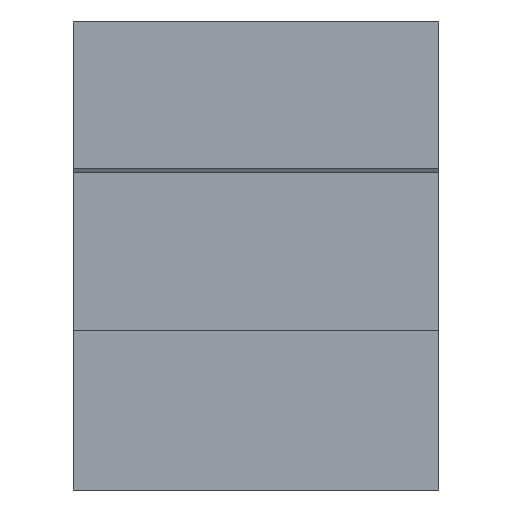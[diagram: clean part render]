
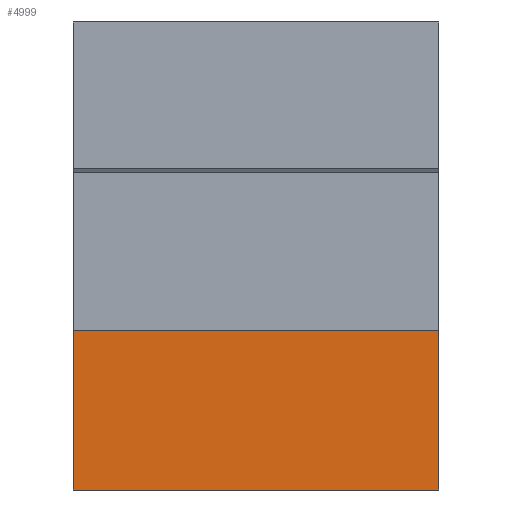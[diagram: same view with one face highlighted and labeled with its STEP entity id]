
A CAD part, front view. The second image highlights one B-rep face of the part: STEP entity #4999.
In plain terms, the highlighted planar face has unit normal (0, -1, 0).
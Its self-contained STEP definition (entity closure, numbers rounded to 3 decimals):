
#225 = EDGE_CURVE ( 'NONE', #2003, #3189, #1235, .T. ) ;
#360 = PLANE ( 'NONE',  #1735 ) ;
#535 = LINE ( 'NONE', #1136, #741 ) ;
#741 = VECTOR ( 'NONE', #6154, 1000. ) ;
#984 = VECTOR ( 'NONE', #7866, 1000. ) ;
#994 = CARTESIAN_POINT ( 'NONE',  ( 39., -29.1, -50. ) ) ;
#1010 = CARTESIAN_POINT ( 'NONE',  ( -39., -29.1, 50. ) ) ;
#1043 = CARTESIAN_POINT ( 'NONE',  ( 39., -29.1, 50. ) ) ;
#1088 = DIRECTION ( 'NONE',  ( 0., 0., 1. ) ) ;
#1136 = CARTESIAN_POINT ( 'NONE',  ( -39., -29.1, -15.938 ) ) ;
#1138 = EDGE_CURVE ( 'NONE', #1652, #5339, #4462, .T. ) ;
#1235 = LINE ( 'NONE', #9268, #984 ) ;
#1652 = VERTEX_POINT ( 'NONE', #1891 ) ;
#1735 = AXIS2_PLACEMENT_3D ( 'NONE', #1043, #5381, #1088 ) ;
#1850 = CARTESIAN_POINT ( 'NONE',  ( 39., -29.1, -15.938 ) ) ;
#1891 = CARTESIAN_POINT ( 'NONE',  ( -39., -29.1, -15.938 ) ) ;
#1983 = EDGE_CURVE ( 'NONE', #1652, #2003, #535, .T. ) ;
#2003 = VERTEX_POINT ( 'NONE', #1850 ) ;
#2407 = VECTOR ( 'NONE', #4073, 1000. ) ;
#2563 = VECTOR ( 'NONE', #7497, 1000. ) ;
#3189 = VERTEX_POINT ( 'NONE', #994 ) ;
#3350 = CARTESIAN_POINT ( 'NONE',  ( 39., -29.1, -50. ) ) ;
#3880 = CARTESIAN_POINT ( 'NONE',  ( -39., -29.1, -50. ) ) ;
#4073 = DIRECTION ( 'NONE',  ( -1., 0., 0. ) ) ;
#4462 = LINE ( 'NONE', #1010, #2563 ) ;
#4757 = ORIENTED_EDGE ( 'NONE', *, *, #1983, .F. ) ;
#4999 = ADVANCED_FACE ( 'NONE', ( #6670 ), #360, .F. ) ;
#5056 = EDGE_CURVE ( 'NONE', #3189, #5339, #6234, .T. ) ;
#5117 = ORIENTED_EDGE ( 'NONE', *, *, #5056, .F. ) ;
#5217 = ORIENTED_EDGE ( 'NONE', *, *, #225, .F. ) ;
#5339 = VERTEX_POINT ( 'NONE', #3880 ) ;
#5381 = DIRECTION ( 'NONE',  ( 0., 1., 0. ) ) ;
#6154 = DIRECTION ( 'NONE',  ( 1., 0., 0. ) ) ;
#6234 = LINE ( 'NONE', #3350, #2407 ) ;
#6670 = FACE_OUTER_BOUND ( 'NONE', #8969, .T. ) ;
#7497 = DIRECTION ( 'NONE',  ( 0., 0., -1. ) ) ;
#7737 = ORIENTED_EDGE ( 'NONE', *, *, #1138, .T. ) ;
#7866 = DIRECTION ( 'NONE',  ( 0., 0., -1. ) ) ;
#8969 = EDGE_LOOP ( 'NONE', ( #5217, #4757, #7737, #5117 ) ) ;
#9268 = CARTESIAN_POINT ( 'NONE',  ( 39., -29.1, 50. ) ) ;
